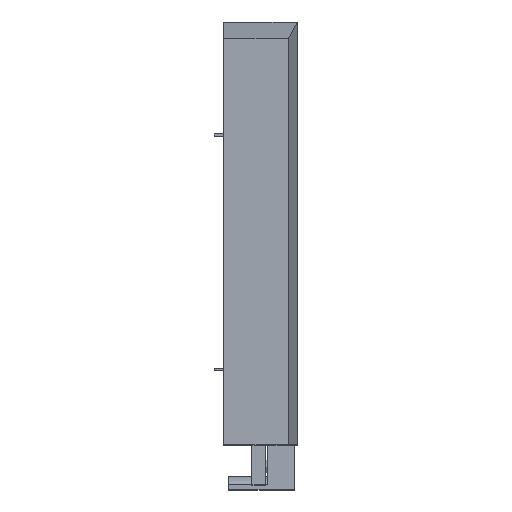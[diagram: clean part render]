
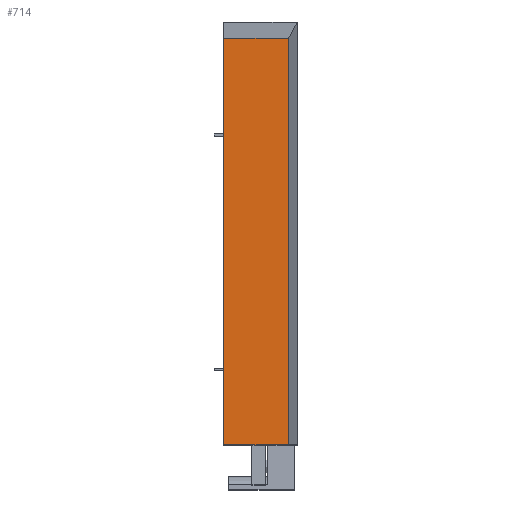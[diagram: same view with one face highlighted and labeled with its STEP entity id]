
A CAD part, top view. The second image highlights one B-rep face of the part: STEP entity #714.
In plain terms, the highlighted planar face has unit normal (0, 0, 1).
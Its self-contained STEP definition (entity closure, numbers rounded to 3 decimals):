
#228 = VERTEX_POINT ( 'NONE', #3129 ) ;
#246 = CARTESIAN_POINT ( 'NONE',  ( 40.35, -9.2, 23.136 ) ) ;
#265 = LINE ( 'NONE', #246, #3946 ) ;
#351 = ORIENTED_EDGE ( 'NONE', *, *, #416, .T. ) ;
#416 = EDGE_CURVE ( 'NONE', #228, #1075, #2648, .T. ) ;
#714 = ADVANCED_FACE ( 'NONE', ( #1623 ), #1869, .F. ) ;
#973 = VECTOR ( 'NONE', #996, 1000. ) ;
#996 = DIRECTION ( 'NONE',  ( -1., 0., 0. ) ) ;
#1075 = VERTEX_POINT ( 'NONE', #4091 ) ;
#1124 = VERTEX_POINT ( 'NONE', #3097 ) ;
#1286 = CARTESIAN_POINT ( 'NONE',  ( 40.35, 213.029, 23.136 ) ) ;
#1404 = VERTEX_POINT ( 'NONE', #2534 ) ;
#1502 = DIRECTION ( 'NONE',  ( 0., 0., -1. ) ) ;
#1559 = DIRECTION ( 'NONE',  ( 0., 1., 0. ) ) ;
#1576 = LINE ( 'NONE', #1618, #4022 ) ;
#1618 = CARTESIAN_POINT ( 'NONE',  ( 35.35, 213.029, 23.136 ) ) ;
#1623 = FACE_OUTER_BOUND ( 'NONE', #3158, .T. ) ;
#1798 = AXIS2_PLACEMENT_3D ( 'NONE', #1803, #1502, #1828 ) ;
#1803 = CARTESIAN_POINT ( 'NONE',  ( 40.35, 0., 23.136 ) ) ;
#1828 = DIRECTION ( 'NONE',  ( 0., 1., 0. ) ) ;
#1867 = CARTESIAN_POINT ( 'NONE',  ( 0., 0., 23.136 ) ) ;
#1869 = PLANE ( 'NONE',  #1798 ) ;
#1929 = EDGE_CURVE ( 'NONE', #1075, #1124, #2212, .T. ) ;
#2155 = ORIENTED_EDGE ( 'NONE', *, *, #4152, .T. ) ;
#2212 = LINE ( 'NONE', #1867, #3989 ) ;
#2513 = EDGE_CURVE ( 'NONE', #1404, #1124, #265, .T. ) ;
#2534 = CARTESIAN_POINT ( 'NONE',  ( 35.35, -9.2, 23.136 ) ) ;
#2570 = DIRECTION ( 'NONE',  ( -1., 0., 0. ) ) ;
#2648 = LINE ( 'NONE', #1286, #973 ) ;
#2756 = ORIENTED_EDGE ( 'NONE', *, *, #1929, .T. ) ;
#2877 = ORIENTED_EDGE ( 'NONE', *, *, #2513, .F. ) ;
#3097 = CARTESIAN_POINT ( 'NONE',  ( 0., -9.2, 23.136 ) ) ;
#3129 = CARTESIAN_POINT ( 'NONE',  ( 35.35, 213.029, 23.136 ) ) ;
#3158 = EDGE_LOOP ( 'NONE', ( #2877, #2155, #351, #2756 ) ) ;
#3184 = DIRECTION ( 'NONE',  ( 0., -1., 0. ) ) ;
#3946 = VECTOR ( 'NONE', #2570, 1000. ) ;
#3989 = VECTOR ( 'NONE', #3184, 1000. ) ;
#4022 = VECTOR ( 'NONE', #1559, 1000. ) ;
#4091 = CARTESIAN_POINT ( 'NONE',  ( 0., 213.029, 23.136 ) ) ;
#4152 = EDGE_CURVE ( 'NONE', #1404, #228, #1576, .T. ) ;
